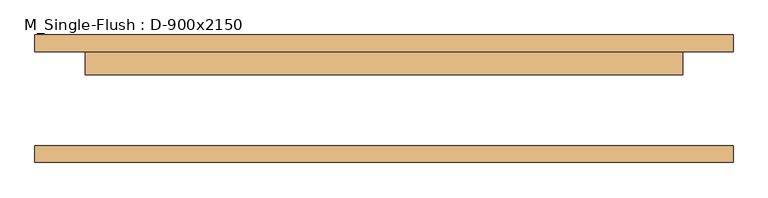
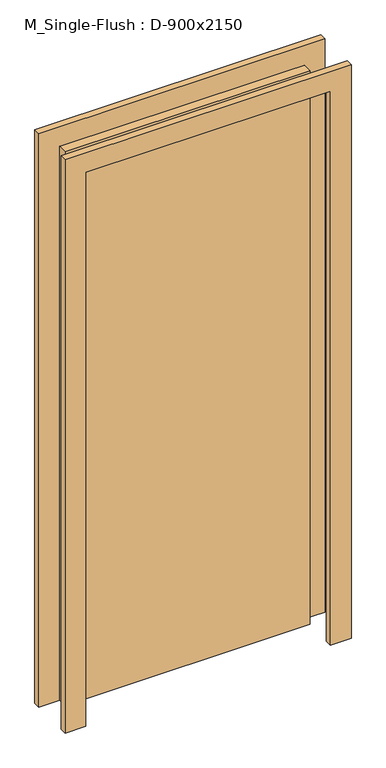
"""IFC4 building model written with IfcOpenShell, lengths in millimetres: door geometry, M_Single-Flush : D-900x2150."""

from ifc_helpers import new_model, si_unit, frame, origin, origin_with_axes, place, context, project, spatial, polyline, outline, extrude, source, transform, mapped, element, save


def m_single_flush_d_900x2150_308bf3ab(model_context):
    return source(origin(), model_context, "Body", "SweptSolid", [
        extrude(outline(polyline([(2226.0, -526.0), (0.0, -526.0), (0.0, -450.0), (2150.0, -450.0), (2150.0, 450.0), (0.0, 450.0), (0.0, 526.0), (2226.0, 526.0), (2226.0, -526.0)])), frame((0.0, 71.0, 0.0), z_axis=(0.0, 1.0, 0.0), x_axis=(0.0, 0.0, 1.0)), (0.0, 0.0, 1.0), 25.0),
        extrude(outline(polyline([(2226.0, 526.0), (2226.0, -526.0), (0.0, -526.0), (0.0, -450.0), (2150.0, -450.0), (2150.0, 450.0), (0.0, 450.0), (0.0, 526.0), (2226.0, 526.0)])), frame((0.0, -96.0, 0.0), z_axis=(0.0, 1.0, 0.0), x_axis=(0.0, 0.0, 1.0)), (0.0, 0.0, 1.0), 25.0),
        extrude(outline(polyline([(450.0, 36.0), (-450.0, 36.0), (-450.0, 71.0), (450.0, 71.0), (450.0, 36.0)])), origin_with_axes(), (0.0, 0.0, 1.0), 2150.0),
    ])


if __name__ == "__main__":
    model = new_model("IFC4")
    model_context = context("Model", 3, world=origin())
    ifc_project = project(units=[si_unit("LENGTHUNIT", "METRE", prefix="MILLI")], contexts=[model_context])
    site = spatial("IfcSite", under=ifc_project)
    building = spatial("IfcBuilding", under=site)
    placement = place(None, origin())
    m_single_flush_d_900x2150_shape = m_single_flush_d_900x2150_308bf3ab(model_context)
    element("IfcDoor", 1, ObjectType="M_Single-Flush : D-900x2150", at=placement, inside=building, context=model_context, shape_type="MappedRepresentation", body=[
        mapped(m_single_flush_d_900x2150_shape, transform((0.0, 0.0, 0.0), x_axis=(1.0, 0.0, 0.0), y_axis=(0.0, 1.0, 0.0), z_axis=(0.0, 0.0, 1.0))),
    ])
    save(model, "model.ifc")
